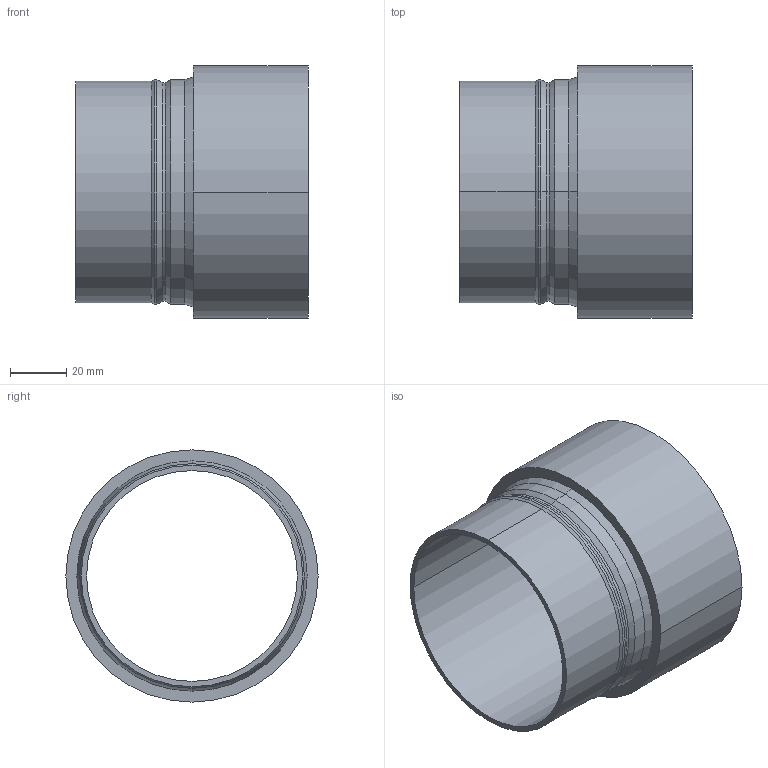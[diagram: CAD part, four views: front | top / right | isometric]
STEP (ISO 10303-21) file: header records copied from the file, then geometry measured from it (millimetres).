
FILE_DESCRIPTION (( 'STEP AP214' ), '1' );
FILE_NAME ('BR606.63 DR 75.STEP', '2020-12-02T14:15:54', ( '' ), ( '' ), 'SwSTEP 2.0', 'SolidWorks 2018', '' );
FILE_SCHEMA (( 'AUTOMOTIVE_DESIGN' ));
Length unit declared in the file: millimetre
Products named in the file (1): BR606.63 DR 75
Bounding box: 83 x 90 x 90 mm (x, y, z)
Volume: 99670.9 mm3; surface area: 45340 mm2
Topology: 1 solids, 1 shells, 23 faces, 46 edges, 26 vertices
Faces by surface type: cylinder 12, cone 8, plane 3
Entity records: 632 total; most frequent: DIRECTION 120, CARTESIAN_POINT 96, ORIENTED_EDGE 92, AXIS2_PLACEMENT_3D 50, EDGE_CURVE 46, EDGE_LOOP 26, VERTEX_POINT 26, CIRCLE 26
